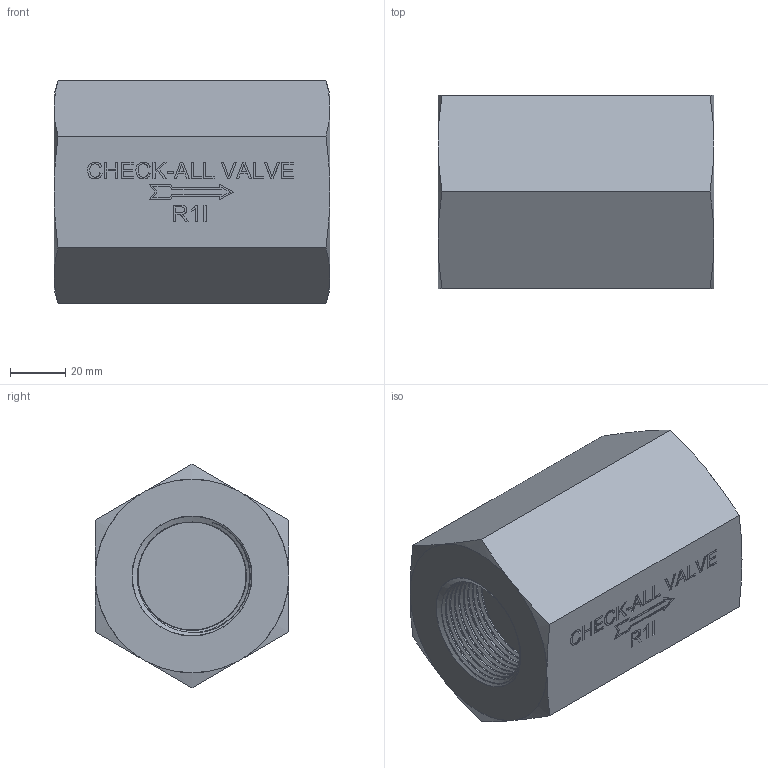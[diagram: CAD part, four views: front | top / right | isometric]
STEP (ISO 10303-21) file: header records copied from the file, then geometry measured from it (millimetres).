
FILE_DESCRIPTION( ( 'Unknown' ), '1' );
FILE_NAME( 'Y:/ENGR/3D Solid Edge Models/R1/stp/R1I.stp', 'Unknown', ( 'Unknown' ), ( 'Unknown' ), 'PSStep 16.0.42', 'Unknown', ' ' );
FILE_SCHEMA( ( 'AUTOMOTIVE_DESIGN { 1 0 10303 214 1 1 1 1 }' ) );
Length unit declared in the file: millimetre
Products named in the file (1): 1
Bounding box: 99.49 x 69.85 x 80.66 mm (x, y, z)
Volume: 364486.3 mm3; surface area: 41508.4 mm2
Topology: 1 solids, 1 shells, 254 faces, 672 edges, 420 vertices
Faces by surface type: extrusion 134, plane 56, bspline 34, cone 14, torus 14, cylinder 2
Entity records: 45651 total; most frequent: CARTESIAN_POINT 38104, ORIENTED_EDGE 1280, DIRECTION 748, EDGE_CURVE 640, VECTOR 462, VERTEX_POINT 416, B_SPLINE_CURVE_WITH_KNOTS 384, LINE 328
